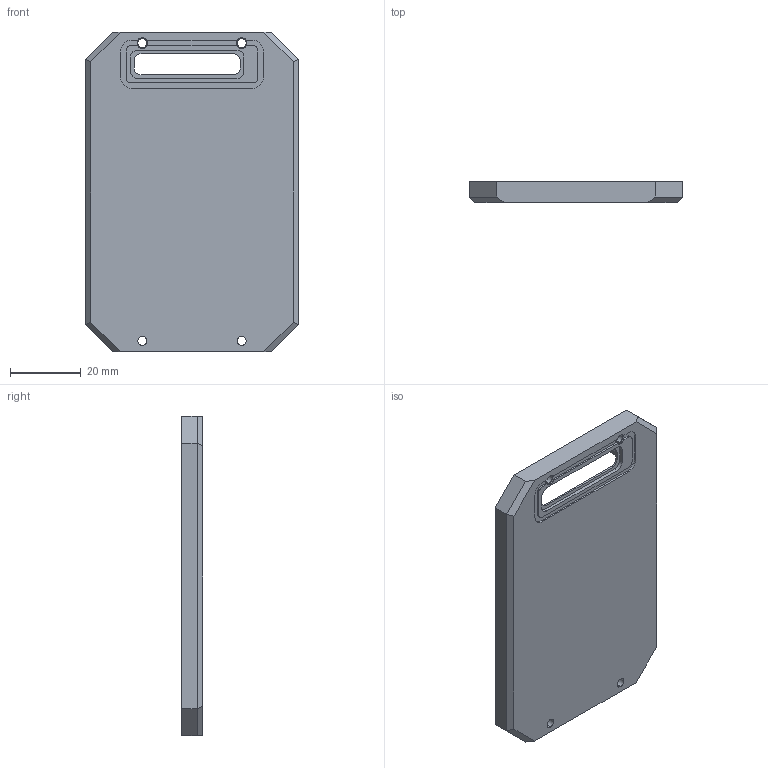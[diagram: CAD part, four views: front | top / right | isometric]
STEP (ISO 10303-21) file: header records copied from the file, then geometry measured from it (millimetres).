
FILE_DESCRIPTION(/* description */ ('VariCAD 2008 2.03 AP-203'),/* implementation_level */ '2;1');
FILE_NAME(/* name */ '0353-18-03',/* time_stamp */ '2008-08-11T17:25:11-06:00',/* author */ (''),/* organization */ (''),/* preprocessor_version */ 'ST-DEVELOPER v12',/* originating_system */ 'VariCAD 2008 2.03; kernel version (20080531)',/* authorisation */ '');
FILE_SCHEMA (('CONFIG_CONTROL_DESIGN'));
Length unit declared in the file: millimetre
Products named in the file (1): Part
Bounding box: 60 x 6 x 90 mm (x, y, z)
Volume: 13919 mm3; surface area: 13459.4 mm2
Topology: 1 solids, 1 shells, 149 faces, 416 edges, 268 vertices
Faces by surface type: plane 89, cylinder 60
Entity records: 4856 total; most frequent: DIRECTION 862, CARTESIAN_POINT 835, ORIENTED_EDGE 832, EDGE_CURVE 416, AXIS2_PLACEMENT_3D 295, LINE 272, VECTOR 272, VERTEX_POINT 268
